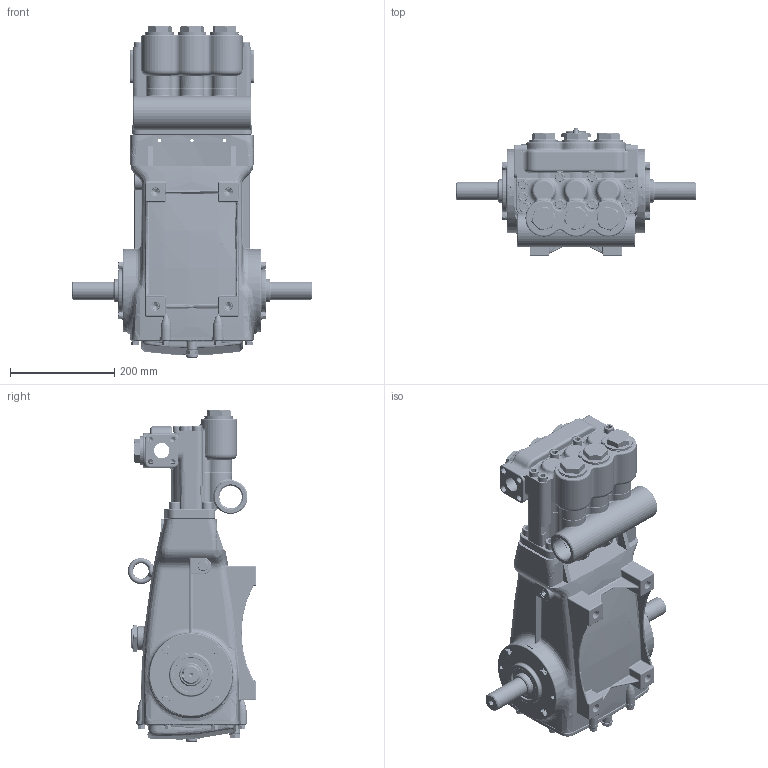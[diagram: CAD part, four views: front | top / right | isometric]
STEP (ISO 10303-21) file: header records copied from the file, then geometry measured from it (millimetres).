
FILE_DESCRIPTION (( 'STEP AP214' ), '1' );
FILE_NAME ('3541.STEP', '2012-12-13T10:28:20', ( '' ), ( '' ), 'SwSTEP 2.0', 'SolidWorks 2012', '' );
FILE_SCHEMA (( 'AUTOMOTIVE_DESIGN' ));
Length unit declared in the file: millimetre
Products named in the file (1): 3541
Bounding box: 460 x 246.1 x 637 mm (x, y, z)
Volume: 8835851.5 mm3; surface area: 1760690.8 mm2
Topology: 3 solids, 56 shells, 5434 faces, 13338 edges, 8205 vertices
Faces by surface type: plane 2079, cylinder 1460, bspline 804, torus 565, cone 482, sphere 44
Entity records: 246145 total; most frequent: CARTESIAN_POINT 77192, ORIENTED_EDGE 26250, DIRECTION 24975, EDGE_CURVE 13125, AXIS2_PLACEMENT_3D 9601, VERTEX_POINT 8193, EDGE_LOOP 5884, LINE 5773
